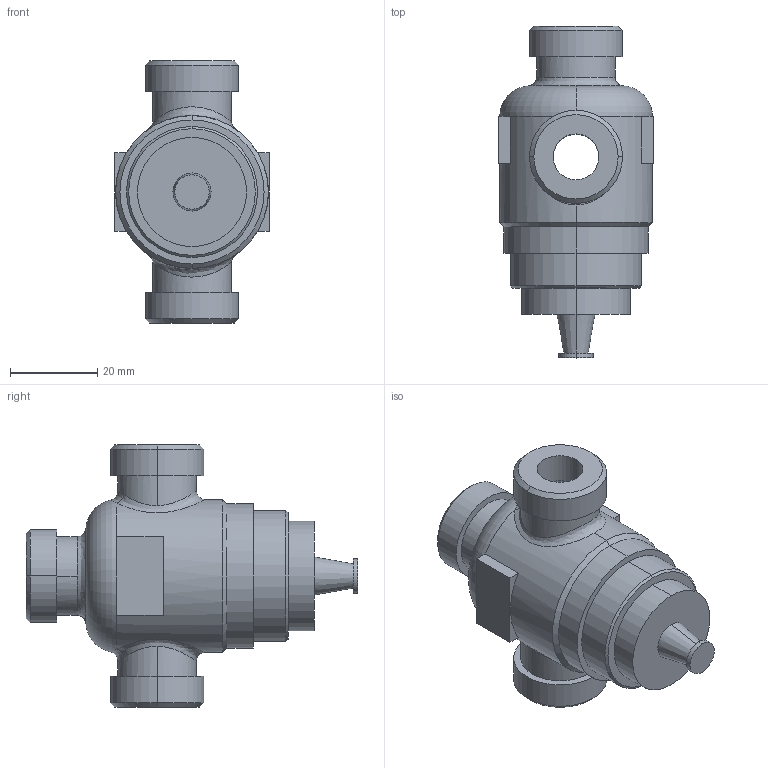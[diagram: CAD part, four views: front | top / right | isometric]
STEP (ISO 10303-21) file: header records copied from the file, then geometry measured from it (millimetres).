
FILE_DESCRIPTION((''),'2;1');
FILE_NAME('000420.dwg.stp','2006-10-04T11:29:50',(''),(''),'Mechanical Desktop 2006','Mechanical Desktop 2006',', , ');
FILE_SCHEMA(('AUTOMOTIVE_DESIGN { 1 2 10303 214 0 1 1 1 }'));
Length unit declared in the file: millimetre
Products named in the file (1): Product
Bounding box: 35.36 x 76 x 60 mm (x, y, z)
Volume: 49380.4 mm3; surface area: 16266.6 mm2
Topology: 8 solids, 8 shells, 80 faces, 174 edges, 109 vertices
Faces by surface type: cylinder 31, plane 25, cone 12, bspline 10, torus 2
Entity records: 3129 total; most frequent: CARTESIAN_POINT 1311, DIRECTION 378, ORIENTED_EDGE 348, EDGE_CURVE 174, AXIS2_PLACEMENT_3D 156, VERTEX_POINT 109, EDGE_LOOP 89, CIRCLE 81
